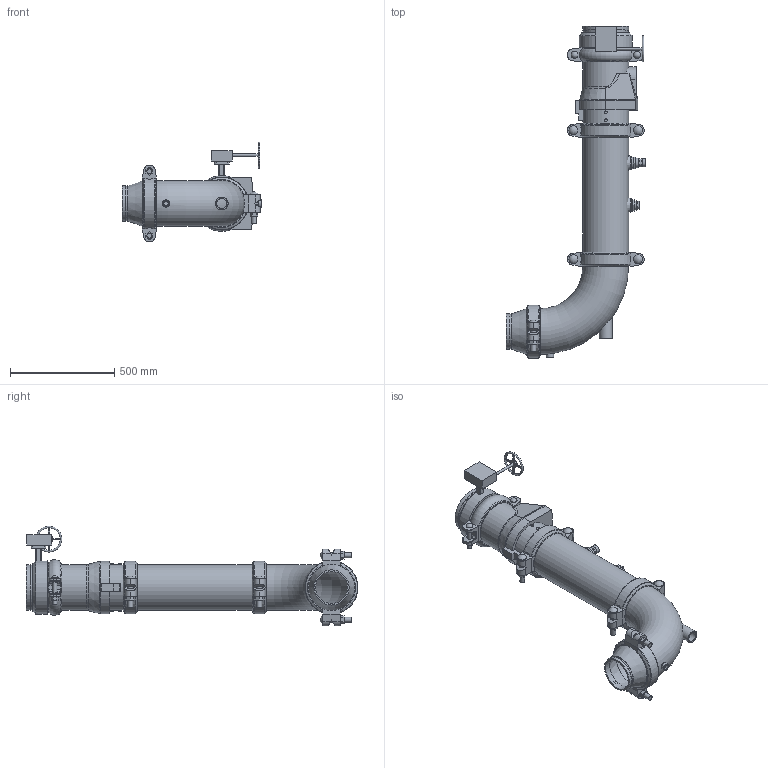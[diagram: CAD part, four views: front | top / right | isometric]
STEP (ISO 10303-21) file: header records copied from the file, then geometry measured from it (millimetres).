
FILE_DESCRIPTION(/* description */ ('VIC DVI PUMP DROP HORZ S/380G (OGSxOGS)','CAx-IF Rec.Pracs.---Representation and Presentation of Product Manufacturing Information (PMI)---4.0---2014-10-13'),/* implementation_level */ '2;1');
FILE_NAME(/* name */ 'C:\Users\kkamble\AppData\Roaming\Autodesk\ApplicationPlugins\Victaulic.Temp\A789\Victaulic_IPS_Horizontal DVI_CL 150_Series 380 (OGSxOGS)_924 (0.75)_08.0x06.0 (200x150).stp',/* time_stamp */ '2021-07-06T09:53:44+05:00',/* author */ ('Vjadhav'),/* organization */ ('Victaulic'),/* preprocessor_version */ 'ST-DEVELOPER v17.2',/* originating_system */ 'Autodesk Inventor 2019',/* authorisation */ '');
FILE_SCHEMA (('AP242_MANAGED_MODEL_BASED_3D_ENGINEERING_MIM_LF { 1 0 10303 442 1 1 4 }'));
Length unit declared in the file: inch
Products named in the file (10): 380_924 (0.75)-08.0x06.0; Pipe-08.0x06.0; 107N-08.0; 924-04.0x0.75; 923-04.0x0.75; 779-08.0; 761-08.0; 100G-08.0; 050-08.0x06.0; 177N-08.0
Assembly tree (11 placements, depth 2):
  380_924 (0.75)-08.0x06.0
    177N-08.0  x3
    Pipe-08.0x06.0
    107N-08.0
    924-04.0x0.75
    923-04.0x0.75
    779-08.0
    761-08.0
    100G-08.0
    050-08.0x06.0
Bounding box: 668.08 x 1588.66 x 477.26 mm (x, y, z)
Volume: 19878477.2 mm3; surface area: 3468404.5 mm2
Topology: 11 solids, 12 shells, 706 faces, 1843 edges, 1231 vertices
Faces by surface type: plane 391, cylinder 237, torus 28, cone 24, bspline 18, sphere 8
Full cylindrical faces by diameter (mm): 8.636 x4, 12.446 x1, 12.7 x1, 13.716 x4, 19.05 x4, 20.93 x1, 22.86 x1, 23.774 x6, 26.67 x4, 32.537 x2, 34.29 x1, 38.608 x1, 39.125 x1, 42.85 x6, 45.974 x4, 48.26 x1, 55.118 x1, 55.626 x2, 60.96 x1, 154.051 x1, 163.957 x1, 168.275 x2, 202.717 x6, 206.375 x4, 214.401 x9, 219.075 x23, 254 x1
Entity records: 18364 total; most frequent: CARTESIAN_POINT 4400, DIRECTION 2844, ORIENTED_EDGE 2666, EDGE_CURVE 1333, AXIS2_PLACEMENT_3D 1090, VERTEX_POINT 895, LINE 664, VECTOR 664
